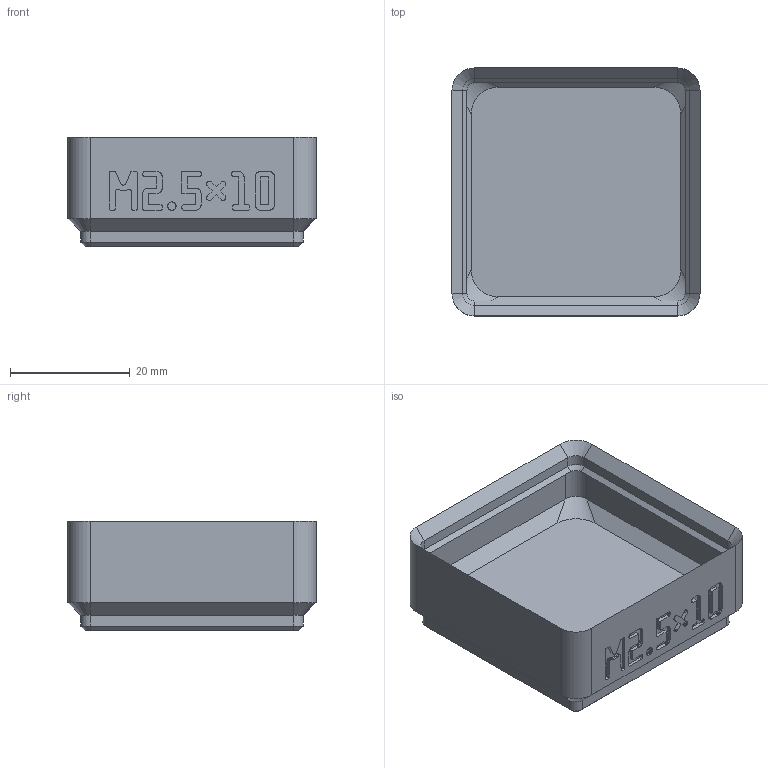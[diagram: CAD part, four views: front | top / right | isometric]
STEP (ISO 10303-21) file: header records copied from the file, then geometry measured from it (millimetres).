
FILE_DESCRIPTION(('Open CASCADE Model'),'2;1');
FILE_NAME('bin_m2_5x10','2026-11-03T16:47:33',('Author'),('Open CASCADE' ),'Open CASCADE STEP processor 8.0','build123d','Unknown');
FILE_SCHEMA(('AUTOMOTIVE_DESIGN { 1 0 10303 214 1 1 1 1 }'));
Length unit declared in the file: millimetre
Products named in the file (1): bin_m2_5x10
Bounding box: 41.5 x 41.5 x 18.4 mm (x, y, z)
Volume: 10988.3 mm3; surface area: 8310.9 mm2
Topology: 1 solids, 1 shells, 726 faces, 2065 edges, 1358 vertices
Faces by surface type: plane 678, cylinder 24, cone 16, bspline 8
Full cylindrical faces by diameter (mm): 3.2 x4, 6.5 x4
Entity records: 48586 total; most frequent: CARTESIAN_POINT 9802, DIRECTION 6271, LINE 4685, VECTOR 4685, ORIENTED_EDGE 4130, PCURVE 4130, DEFINITIONAL_REPRESENTATION 4130, EDGE_CURVE 2065
